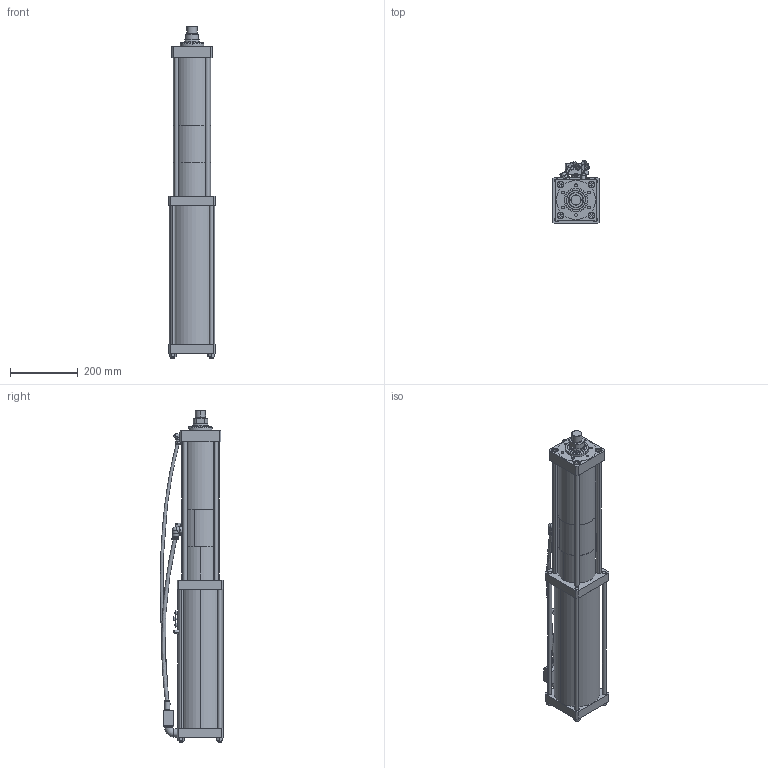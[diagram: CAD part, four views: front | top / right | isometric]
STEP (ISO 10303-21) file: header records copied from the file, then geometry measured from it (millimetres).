
FILE_DESCRIPTION (( 'STEP AP203' ), '1' );
FILE_NAME ('BS08-150-12S.step', '2025-07-31T09:39:47', ( 'Ranlm' ), ( '' ), 'SwSTEP 2.0', 'SolidWorks 2022', '' );
FILE_SCHEMA (( 'CONFIG_CONTROL_DESIGN' ));
Length unit declared in the file: millimetre
Products named in the file (1): BS08-150-12S
Bounding box: 137 x 186.69 x 979 mm (x, y, z)
Surface area: 709231.5 mm2 (no closed solid volume)
Topology: 0 solids, 51 shells, 514 faces, 1438 edges, 944 vertices
Faces by surface type: plane 235, cylinder 181, cone 70, torus 21, bspline 6, sphere 1
Entity records: 17908 total; most frequent: CARTESIAN_POINT 4421, DIRECTION 3024, ORIENTED_EDGE 2396, EDGE_CURVE 1424, AXIS2_PLACEMENT_3D 1151, VERTEX_POINT 943, LINE 722, VECTOR 722
